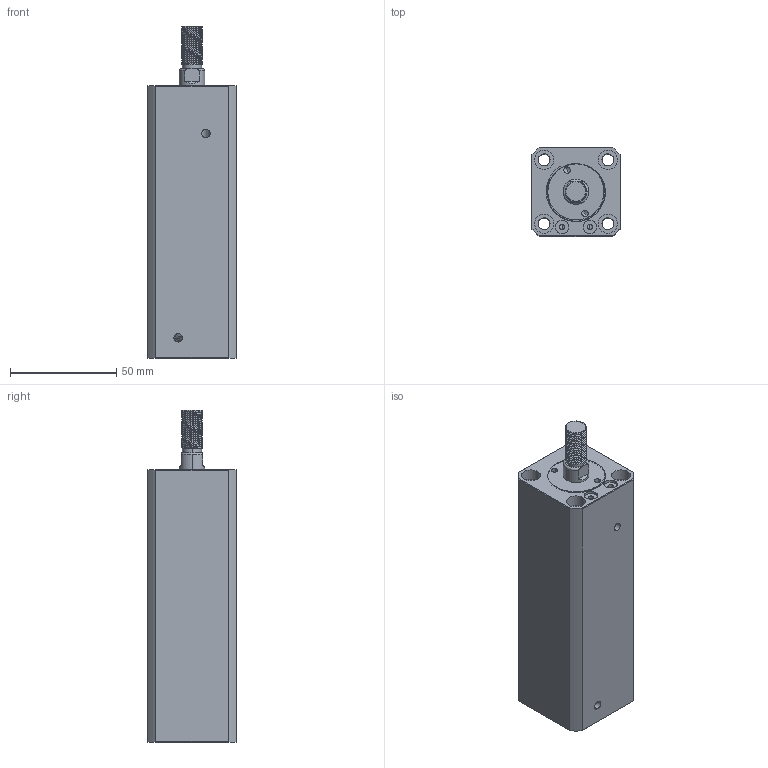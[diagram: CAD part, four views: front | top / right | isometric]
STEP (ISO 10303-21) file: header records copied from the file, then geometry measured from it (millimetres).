
FILE_DESCRIPTION (( 'STEP AP214' ), '1' );
FILE_NAME ('chtb-sdma20x85w_asm.STEP', '2018-05-18T04:43:56', ( 'Windows' ), ( 'Microsoft' ), 'SwSTEP 2.0', 'SolidWorks 2015', '' );
FILE_SCHEMA (( 'AUTOMOTIVE_DESIGN' ));
Length unit declared in the file: millimetre
Products named in the file (4): QG_3; CHTB-SDMA20X85WHSG; CHTB-SDMA20X85NBT; chtb-sdma20x85w_asm
Assembly tree (3 placements, depth 2):
  chtb-sdma20x85w_asm
    CHTB-SDMA20X85NBT
    CHTB-SDMA20X85WHSG
    QG_3
Bounding box: 42 x 42 x 156 mm (x, y, z)
Volume: 190475.9 mm3; surface area: 53840.9 mm2
Topology: 3 solids, 3 shells, 247 faces, 671 edges, 446 vertices
Faces by surface type: cylinder 144, plane 48, torus 25, bspline 23, cone 7
Entity records: 14895 total; most frequent: CARTESIAN_POINT 9018, ORIENTED_EDGE 1334, DIRECTION 1075, EDGE_CURVE 667, VERTEX_POINT 446, AXIS2_PLACEMENT_3D 441, EDGE_LOOP 285, FACE_OUTER_BOUND 247
